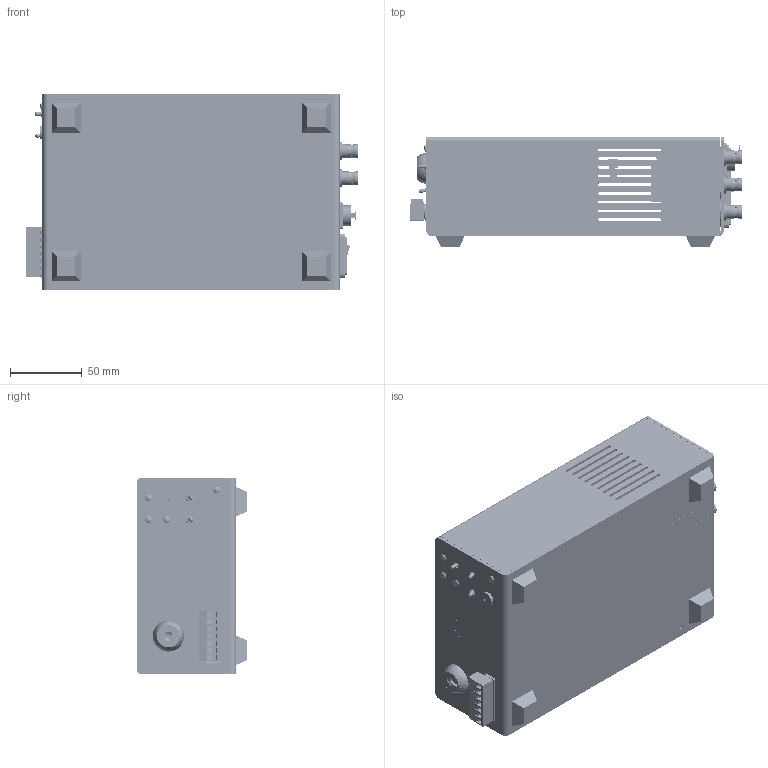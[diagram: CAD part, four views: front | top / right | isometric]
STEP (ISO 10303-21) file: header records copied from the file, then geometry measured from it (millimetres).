
FILE_DESCRIPTION (( 'STEP AP214' ), '1' );
FILE_NAME ('VCM-D1.STEP', '2022-11-09T15:23:31', ( '' ), ( '' ), 'SwSTEP 2.0', 'SolidWorks 2022', '' );
FILE_SCHEMA (( 'AUTOMOTIVE_DESIGN' ));
Length unit declared in the file: inch
Products named in the file (58): Corcomlabel; D1D3T1rs232assy_VCM-D1; Ledclip; Slideswitchspdt2; 6-32 Nut Hex_.109 thick; VCM-D1subassy_Subassy; BNCgroundlug_Trimmed; Switch_D1-T1; VCM-D1fpsilkassy; Logo_Scale VCM-D1; 3-48 x .1875 FH_CR-FHMS 0.099-48x0.188x0.188-S; SwitchcraftTiniQG; Fuseholder; Corcompower_115 V Closed; RS232fsilk; VCM-D1rppcb_MainBrd Subassy, Trimmed GLug; Keyswitchnut; VCM-D1caseassy_Rear panel assy, Trimmed GLug; Cabletie_2wires short; Led; BNCnut; VCM-D1; 6-32mfstandoff; 440-632screw; Keyswitchcable_Short; VA; VCM-D1spacer; VCM-D1metlabel; Rochester; VCM-D1rpcb; 1-2-20hexnut_.255thick; Switch_D3-D4; VCM-D1serialnolabel; VCM-D1case_With rp stud; Poststripplug_7; VCM-D1mpcbsilk; groundlug; Terminalsocket_7; Washer; Keyswitchassy_Short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
Assembly tree (98 placements, depth 5):
  RS232fsilk
  VCM-D1
    VCM-D1rppcb_MainBrd Subassy, Trimmed GLug
      VCM-D1rpcb
        Slideswitchspdt2  x8
      VCM-D1caseassy_Rear panel assy, Trimmed GLug
        VCM-D1case_With rp stud
        BNC  x6
        BNCnut  x6
        groundlug  x6
        Corcompower_115 V Closed
        BNCgroundlug_Trimmed
        Ledclip  x4
        Keyswitchassy_Short
          Keyswitch_Assembly
          5-pinharness_9-pin
          Keyswitchcable_Short
          Cabletie_2wires short
        Keyswitchnut
        Foot  x4
        VCM-D1spacer
        VCM-D1rpsilk
        VCM-D1fpsilkassy
          VCM-D1fpsilk
          Logo_Scale VCM-D1
          Rochester
          VA
          VCM-D1
          New logo 3D_VDM1000
        VCM-D1serialnolabel
        VCM-D1metlabel
        SwitchcraftTiniQG
        3-48 x .1875 FH_CR-FHMS 0.099-48x0.188x0.188-S  x2
        1-2-20hexnut_.255thick
      6-32 Nut Hex_.109 thick
    VCM-D1subassy_Subassy
      VCM-D1mpcbassy_Subassy
        Led
        Terminalsocket_7
      D1D3T1rs232assy_VCM-D1
        Octalswitch
        Inout
      D1D3D4T1shdrassy_VCM-D1
        Led  x2
        Switch_D3-D4
        Fuseholder
          Fuseholderbottom
          Corcom Fuse
          Fuseholdercap
      VCM-D1auxassy
        Led
        Switch_D1-T1
        Switch_D3-D4
    Poststripplug_7
    VCM-D1alignmentpl
    VCM-D1cover
    6-32mfstandoff  x4
    440-632screw  x4
    Washer  x4
    Corcomlabel
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Bounding box: 232.11 x 77.11 x 137.41 mm (x, y, z)
Volume: 393347.8 mm3; surface area: 336648.1 mm2
Topology: 464 solids, 464 shells, 9923 faces, 25706 edges, 16987 vertices
Faces by surface type: plane 6376, bspline 1757, cylinder 1481, cone 256, sphere 31, torus 22
Full cylindrical faces by diameter (mm): 0.597 x1, 0.635 x24, 1.145 x8, 1.27 x6, 1.397 x15, 1.524 x4, 1.905 x18, 2.159 x7, 2.286 x7, 2.413 x2, 2.515 x14, 2.54 x7, 2.616 x2, 2.705 x5, 2.794 x6, 2.845 x4, 2.857 x1, 3.251 x4, 3.302 x4, 3.429 x3, 3.48 x2, 3.505 x8, 3.556 x6, 3.797 x4, 3.81 x15, 3.966 x4, 3.969 x2, 4.343 x8, 4.496 x2, 4.572 x6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
Entity records: 412496 total; most frequent: CARTESIAN_POINT 150650, ORIENTED_EDGE 40438, DIRECTION 30691, EDGE_CURVE 20219, LINE 15121, VECTOR 15121, VERTEX_POINT 13500, EDGE_LOOP 8739
